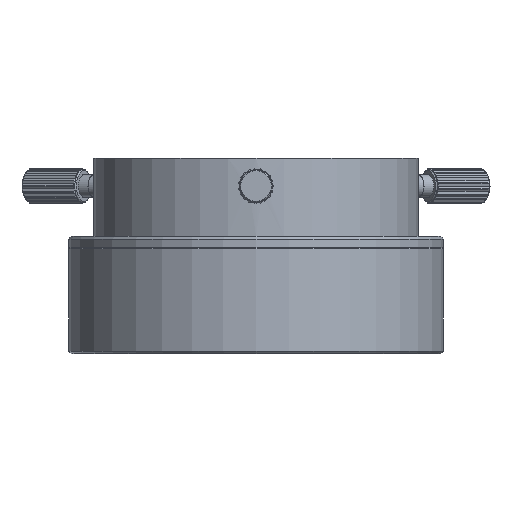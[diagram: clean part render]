
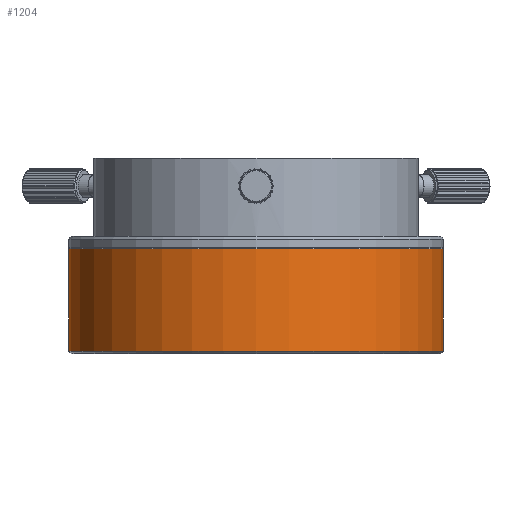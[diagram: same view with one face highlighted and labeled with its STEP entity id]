
A CAD part, front view. The second image highlights one B-rep face of the part: STEP entity #1204.
In plain terms, the highlighted cylindrical face has radius 33.5 mm (diameter 67 mm), a full revolution.
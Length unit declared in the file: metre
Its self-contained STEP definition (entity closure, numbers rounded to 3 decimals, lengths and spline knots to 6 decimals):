
#1204=ADVANCED_FACE('302:78381',(#3491,#3492,#3493),#3494,.T.);
#3491=FACE_OUTER_BOUND('',#7120,.T.);
#3492=FACE_OUTER_BOUND('',#7121,.T.);
#3493=FACE_BOUND('',#7122,.T.);
#3494=CYLINDRICAL_SURFACE('',#7123,0.0335);
#7120=EDGE_LOOP('',(#10755));
#7121=EDGE_LOOP('',(#10756));
#7122=EDGE_LOOP('',(#10757));
#7123=AXIS2_PLACEMENT_3D('',#10758,#10759,#10760);
#10755=ORIENTED_EDGE('',*,*,#19644,.T.);
#10756=ORIENTED_EDGE('',*,*,#19645,.T.);
#10757=ORIENTED_EDGE('',*,*,#19646,.T.);
#10758=CARTESIAN_POINT('',(0.0,0.0,0.0));
#10759=DIRECTION('',(0.0,0.0,1.0));
#10760=DIRECTION('',(1.0,0.0,-0.0));
#19644=EDGE_CURVE('302:81348',#23001,#23001,#23002,.T.);
#19645=EDGE_CURVE('302:81357',#23003,#23003,#23004,.F.);
#19646=EDGE_CURVE('302:81342',#23005,#23005,#23006,.T.);
#23001=VERTEX_POINT('',#28035);
#23002=CIRCLE('',#28036,0.0335);
#23003=VERTEX_POINT('',#28037);
#23004=CIRCLE('',#28038,0.0335);
#23005=VERTEX_POINT('',#28039);
#23006=B_SPLINE_CURVE_WITH_KNOTS('',3,(#28040,#28041,#28042,#28043,#28044,#28045,#28046,#28047,#28048,#28049,#28050,#28051,#28052,#28053,#28054,#28055,#28056,#28057,#28058,#28059,#28060,#28061,#28062,#28063,#28064,#28065,#28066,#28067,#28068,#28069,#28070,#28071,#28072,#28073,#28074,#28075,#28076,#28077,#28078,#28079,#28080,#28081,#28082,#28083,#28084,#28085,#28086,#28087,#28088,#28089,#28090,#28091),.UNSPECIFIED.,.T.,.F.,(2,2,2,2,2,2,2,2,2,2,2,2,2,2,2,2,2,2,2,2,2,2,2,2,2,2,2,2),(-0.000703,0.0,0.000352,0.000703,0.001055,0.001407,0.00211,0.002814,0.003166,0.003517,0.003869,0.004221,0.004573,0.004924,0.005276,0.005628,0.006331,0.007035,0.007387,0.007738,0.00809,0.008442,0.009145,0.009497,0.009849,0.010552,0.011256,0.011608),.UNSPECIFIED.);
#28035=CARTESIAN_POINT('',(0.0335,0.0,0.0005));
#28036=AXIS2_PLACEMENT_3D('',#39520,#39521,#39522);
#28037=CARTESIAN_POINT('',(0.0335,0.,0.0188));
#28038=AXIS2_PLACEMENT_3D('',#39523,#39524,#39525);
#28039=CARTESIAN_POINT('',(-0.0018,0.033452,0.009));
#28040=CARTESIAN_POINT('',(-0.0018,0.033452,0.009238));
#28041=CARTESIAN_POINT('',(-0.0018,0.033452,0.008881));
#28042=CARTESIAN_POINT('',(-0.001788,0.033452,0.008764));
#28043=CARTESIAN_POINT('',(-0.001743,0.033455,0.008534));
#28044=CARTESIAN_POINT('',(-0.001708,0.033456,0.00842));
#28045=CARTESIAN_POINT('',(-0.001618,0.033461,0.008202));
#28046=CARTESIAN_POINT('',(-0.001562,0.033464,0.008098));
#28047=CARTESIAN_POINT('',(-0.001432,0.033469,0.007903));
#28048=CARTESIAN_POINT('',(-0.001356,0.033473,0.00781));
#28049=CARTESIAN_POINT('',(-0.001107,0.033482,0.007561));
#28050=CARTESIAN_POINT('',(-0.000906,0.033488,0.007427));
#28051=CARTESIAN_POINT('',(-0.000473,0.033497,0.007247));
#28052=CARTESIAN_POINT('',(-0.000236,0.0335,0.0072));
#28053=CARTESIAN_POINT('',(0.000116,0.0335,0.0072));
#28054=CARTESIAN_POINT('',(0.000236,0.033499,0.007212));
#28055=CARTESIAN_POINT('',(0.000467,0.033497,0.007258));
#28056=CARTESIAN_POINT('',(0.000579,0.033495,0.007292));
#28057=CARTESIAN_POINT('',(0.000797,0.033491,0.007382));
#28058=CARTESIAN_POINT('',(0.000902,0.033488,0.007438));
#28059=CARTESIAN_POINT('',(0.001097,0.033482,0.007568));
#28060=CARTESIAN_POINT('',(0.001188,0.033479,0.007643));
#28061=CARTESIAN_POINT('',(0.001356,0.033473,0.007811));
#28062=CARTESIAN_POINT('',(0.001431,0.033469,0.007902));
#28063=CARTESIAN_POINT('',(0.001561,0.033464,0.008096));
#28064=CARTESIAN_POINT('',(0.001618,0.033461,0.008202));
#28065=CARTESIAN_POINT('',(0.001708,0.033456,0.00842));
#28066=CARTESIAN_POINT('',(0.001742,0.033455,0.008532));
#28067=CARTESIAN_POINT('',(0.001788,0.033452,0.008763));
#28068=CARTESIAN_POINT('',(0.0018,0.033452,0.008882));
#28069=CARTESIAN_POINT('',(0.0018,0.033452,0.009234));
#28070=CARTESIAN_POINT('',(0.001753,0.033454,0.009471));
#28071=CARTESIAN_POINT('',(0.001574,0.033463,0.009904));
#28072=CARTESIAN_POINT('',(0.00144,0.033469,0.010105));
#28073=CARTESIAN_POINT('',(0.001191,0.033479,0.010355));
#28074=CARTESIAN_POINT('',(0.001099,0.033482,0.010431));
#28075=CARTESIAN_POINT('',(0.000903,0.033488,0.010562));
#28076=CARTESIAN_POINT('',(0.0008,0.033491,0.010617));
#28077=CARTESIAN_POINT('',(0.000582,0.033495,0.010707));
#28078=CARTESIAN_POINT('',(0.000468,0.033497,0.010742));
#28079=CARTESIAN_POINT('',(0.000237,0.033499,0.010788));
#28080=CARTESIAN_POINT('',(0.000121,0.0335,0.0108));
#28081=CARTESIAN_POINT('',(-0.000236,0.0335,0.0108));
#28082=CARTESIAN_POINT('',(-0.000469,0.033497,0.010754));
#28083=CARTESIAN_POINT('',(-0.000797,0.033491,0.010618));
#28084=CARTESIAN_POINT('',(-0.0009,0.033488,0.010563));
#28085=CARTESIAN_POINT('',(-0.001096,0.033482,0.010433));
#28086=CARTESIAN_POINT('',(-0.001189,0.033479,0.010357));
#28087=CARTESIAN_POINT('',(-0.001438,0.03347,0.010108));
#28088=CARTESIAN_POINT('',(-0.001572,0.033463,0.009907));
#28089=CARTESIAN_POINT('',(-0.001752,0.033454,0.009474));
#28090=CARTESIAN_POINT('',(-0.0018,0.033452,0.009238));
#28091=CARTESIAN_POINT('',(-0.0018,0.033452,0.008881));
#39520=CARTESIAN_POINT('',(0.0,0.0,0.0005));
#39521=DIRECTION('',(0.0,-0.0,1.0));
#39522=DIRECTION('',(1.0,0.0,0.0));
#39523=CARTESIAN_POINT('',(0.0,0.0,0.0188));
#39524=DIRECTION('',(0.0,-0.0,1.0));
#39525=DIRECTION('',(1.0,0.0,0.0));
